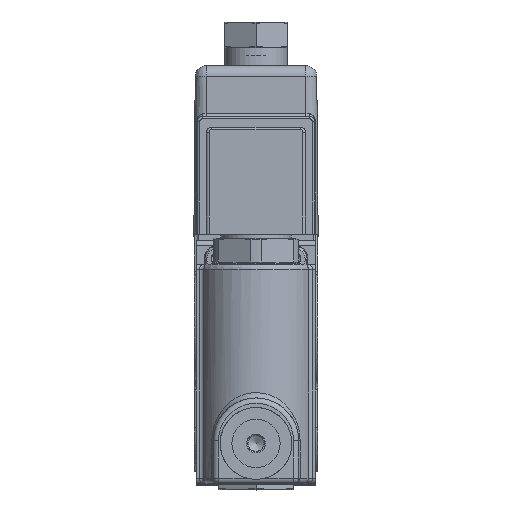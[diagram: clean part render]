
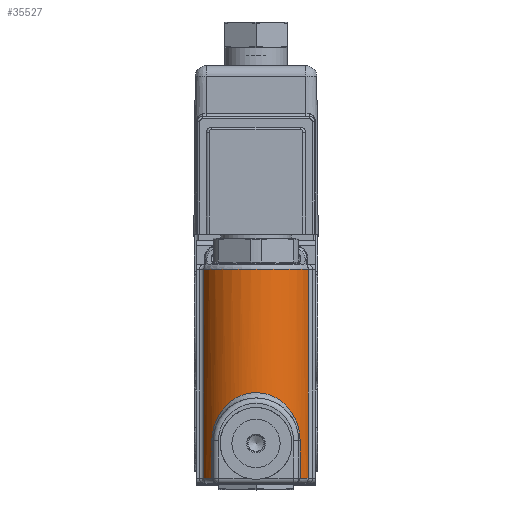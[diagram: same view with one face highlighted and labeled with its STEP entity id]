
A CAD part, top view. The second image highlights one B-rep face of the part: STEP entity #35527.
In plain terms, the highlighted cylindrical face has radius 17.069 mm (diameter 34.138 mm), a partial arc.
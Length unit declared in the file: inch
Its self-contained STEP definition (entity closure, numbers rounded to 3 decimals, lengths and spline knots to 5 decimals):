
#33660=CARTESIAN_POINT('',(-0.60827,-1.751,5.45815));
#33661=VERTEX_POINT('',#33660);
#33682=CARTESIAN_POINT('',(-0.51453,-1.751,5.60475));
#33683=VERTEX_POINT('',#33682);
#33695=CARTESIAN_POINT('',(0.,-1.751,5.1725));
#33696=DIRECTION('',(0.,-1.0,0.));
#33697=DIRECTION('',(-0.849,0.,0.528));
#33698=AXIS2_PLACEMENT_3D('',#33695,#33696,#33697);
#33699=CIRCLE('',#33698,0.672);
#33700=EDGE_CURVE('',#33683,#33661,#33699,.T.);
#35419=CARTESIAN_POINT('',(0.60827,-1.751,5.45815));
#35420=VERTEX_POINT('',#35419);
#35432=CARTESIAN_POINT('',(0.51453,-1.751,5.60475));
#35433=VERTEX_POINT('',#35432);
#35434=CARTESIAN_POINT('',(0.,-1.751,5.1725));
#35435=DIRECTION('',(0.,-1.0,0.));
#35436=DIRECTION('',(0.849,0.,0.528));
#35437=AXIS2_PLACEMENT_3D('',#35434,#35435,#35436);
#35438=CIRCLE('',#35437,0.672);
#35439=EDGE_CURVE('',#35420,#35433,#35438,.T.);
#35462=CARTESIAN_POINT('',(0.,-1.813,5.1725));
#35463=DIRECTION('',(0.,1.0,0.));
#35464=DIRECTION('',(-0.928,0.,-0.372));
#35465=AXIS2_PLACEMENT_3D('',#35462,#35463,#35464);
#35466=CYLINDRICAL_SURFACE('',#35465,0.672);
#35467=CARTESIAN_POINT('',(-0.60827,0.688,5.45815));
#35468=VERTEX_POINT('',#35467);
#35469=CARTESIAN_POINT('',(-0.60827,-1.751,5.45815));
#35470=DIRECTION('',(0.0,1.0,0.0));
#35471=VECTOR('',#35470,2.439);
#35472=LINE('',#35469,#35471);
#35473=EDGE_CURVE('',#33661,#35468,#35472,.T.);
#35474=ORIENTED_EDGE('',*,*,#35473,.F.);
#35475=ORIENTED_EDGE('',*,*,#33700,.F.);
#35476=CARTESIAN_POINT('',(-0.51453,-1.313,5.60475));
#35477=VERTEX_POINT('',#35476);
#35478=CARTESIAN_POINT('',(-0.51453,-1.313,5.60475));
#35479=DIRECTION('',(0.0,-1.0,0.0));
#35480=VECTOR('',#35479,0.438);
#35481=LINE('',#35478,#35480);
#35482=EDGE_CURVE('',#35477,#33683,#35481,.T.);
#35483=ORIENTED_EDGE('',*,*,#35482,.F.);
#35484=CARTESIAN_POINT('',(0.51453,-1.313,5.60475));
#35485=VERTEX_POINT('',#35484);
#35486=CARTESIAN_POINT('',(0.51453,-1.313,5.60475));
#35487=CARTESIAN_POINT('',(0.51453,-1.26899,5.60475));
#35488=CARTESIAN_POINT('',(0.50473,-1.18038,5.61681));
#35489=CARTESIAN_POINT('',(0.45174,-1.02374,5.67337));
#35490=CARTESIAN_POINT('',(0.33712,-0.86547,5.76564));
#35491=CARTESIAN_POINT('',(0.17386,-0.77358,5.82871));
#35492=CARTESIAN_POINT('',(0.01401,-0.74572,5.84821));
#35493=CARTESIAN_POINT('',(-0.14994,-0.76015,5.83802));
#35494=CARTESIAN_POINT('',(-0.30258,-0.84583,5.77889));
#35495=CARTESIAN_POINT('',(-0.40547,-0.9602,5.71064));
#35496=CARTESIAN_POINT('',(-0.46537,-1.06296,5.65906));
#35497=CARTESIAN_POINT('',(-0.50457,-1.18025,5.61693));
#35498=CARTESIAN_POINT('',(-0.51453,-1.26899,5.60475));
#35499=CARTESIAN_POINT('',(-0.51453,-1.313,5.60475));
#35500=B_SPLINE_CURVE_WITH_KNOTS('',3,(#35486,#35487,#35488,#35489,#35490,#35491,#35492,#35493,#35494,#35495,#35496,#35497,#35498,#35499),.UNSPECIFIED.,.F.,.U.,(4,1,1,1,1,1,1,1,1,1,1,4),(0.0,0.33533,0.67066,1.34131,2.01197,2.23552,2.68263,3.35328,3.68861,4.02394,4.35927,4.6946),.UNSPECIFIED.);
#35501=EDGE_CURVE('',#35485,#35477,#35500,.T.);
#35502=ORIENTED_EDGE('',*,*,#35501,.F.);
#35503=CARTESIAN_POINT('',(0.51453,-1.751,5.60475));
#35504=DIRECTION('',(0.0,1.0,0.0));
#35505=VECTOR('',#35504,0.438);
#35506=LINE('',#35503,#35505);
#35507=EDGE_CURVE('',#35433,#35485,#35506,.T.);
#35508=ORIENTED_EDGE('',*,*,#35507,.F.);
#35509=ORIENTED_EDGE('',*,*,#35439,.F.);
#35510=CARTESIAN_POINT('',(0.60827,0.688,5.45815));
#35511=VERTEX_POINT('',#35510);
#35512=CARTESIAN_POINT('',(0.60827,0.688,5.45815));
#35513=DIRECTION('',(0.0,-1.0,0.0));
#35514=VECTOR('',#35513,2.439);
#35515=LINE('',#35512,#35514);
#35516=EDGE_CURVE('',#35511,#35420,#35515,.T.);
#35517=ORIENTED_EDGE('',*,*,#35516,.F.);
#35518=CARTESIAN_POINT('',(0.,0.688,5.1725));
#35519=DIRECTION('',(0.0,1.0,0.0));
#35520=DIRECTION('',(0.0,0.0,1.0));
#35521=AXIS2_PLACEMENT_3D('',#35518,#35519,#35520);
#35522=CIRCLE('',#35521,0.672);
#35523=EDGE_CURVE('',#35468,#35511,#35522,.T.);
#35524=ORIENTED_EDGE('',*,*,#35523,.F.);
#35525=EDGE_LOOP('',(#35474,#35475,#35483,#35502,#35508,#35509,#35517,#35524));
#35526=FACE_OUTER_BOUND('',#35525,.T.);
#35527=ADVANCED_FACE('',(#35526),#35466,.T.);
